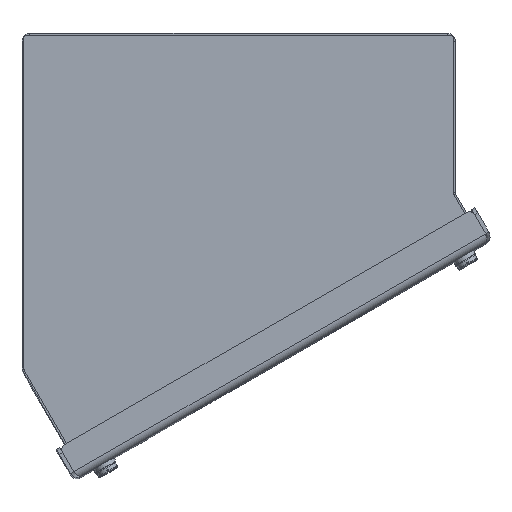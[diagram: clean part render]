
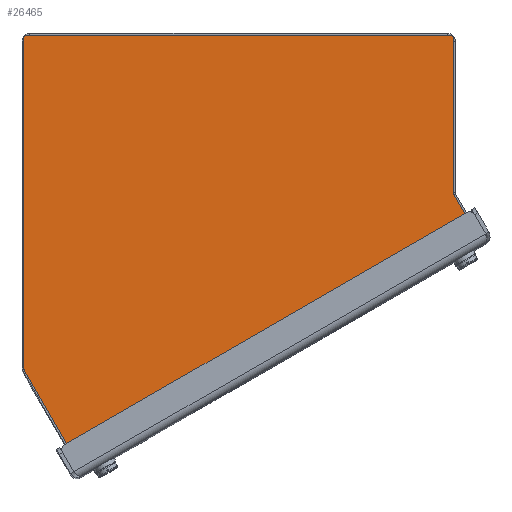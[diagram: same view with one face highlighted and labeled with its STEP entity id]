
A CAD part, top view. The second image highlights one B-rep face of the part: STEP entity #26465.
In plain terms, the highlighted planar face has unit normal (0, 0, 1) as drawn and (0, 1, 0) by its records, which use the part's own axes.
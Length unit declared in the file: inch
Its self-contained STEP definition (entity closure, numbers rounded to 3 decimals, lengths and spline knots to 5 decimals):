
#25774=CARTESIAN_POINT('',(3.32,2.5003,5.33756));
#25775=DIRECTION('',(0.,1.,0.));
#25776=DIRECTION('',(1.,0.,0.));
#25777=AXIS2_PLACEMENT_3D('',#25774,#25775,#25776);
#25782=DIRECTION('',(0.5,0.,0.866));
#25783=VECTOR('',#25782,0.69097);
#25784=CARTESIAN_POINT('',(3.36536,2.5003,7.78518));
#25785=LINE('',#25784,#25783);
#25789=CARTESIAN_POINT('',(3.6762,2.5003,8.40358));
#25790=DIRECTION('',(0.,1.,0.));
#25791=DIRECTION('',(0.5,0.,0.866));
#25792=AXIS2_PLACEMENT_3D('',#25789,#25790,#25791);
#25797=DIRECTION('',(0.5,0.,0.866));
#25798=VECTOR('',#25797,0.09);
#25799=CARTESIAN_POINT('',(3.06144,2.5003,8.70078));
#25800=LINE('',#25799,#25798);
#25804=DIRECTION('',(0.5,0.,0.866));
#25805=VECTOR('',#25804,0.09);
#25806=CARTESIAN_POINT('',(-1.92073,2.5003,11.57723));
#25807=LINE('',#25806,#25805);
#25811=CARTESIAN_POINT('',(-2.48549,2.5003,11.96103));
#25812=DIRECTION('',(0.,1.,0.));
#25813=DIRECTION('',(-0.866,0.,0.5));
#25814=AXIS2_PLACEMENT_3D('',#25811,#25812,#25813);
#25819=DIRECTION('',(0.5,0.,0.866));
#25820=VECTOR('',#25819,1.66902);
#25821=CARTESIAN_POINT('',(-3.35464,2.5003,10.53562));
#25822=LINE('',#25821,#25820);
#25826=CARTESIAN_POINT('',(-3.32,2.5003,10.51562));
#25827=DIRECTION('',(0.,1.,0.));
#25828=DIRECTION('',(-1.,0.,0.));
#25829=AXIS2_PLACEMENT_3D('',#25826,#25827,#25828);
#25834=CARTESIAN_POINT('',(-3.32,2.5003,5.33756));
#25835=DIRECTION('',(0.,1.,0.));
#25836=DIRECTION('',(0.,0.,-1.));
#25837=AXIS2_PLACEMENT_3D('',#25834,#25835,#25836);
#25842=DIRECTION('',(1.,0.,0.));
#25843=VECTOR('',#25842,6.64);
#25844=CARTESIAN_POINT('',(-3.32,2.5003,5.29756));
#25845=LINE('',#25844,#25843);
#25870=DIRECTION('',(0.,0.,1.));
#25871=VECTOR('',#25870,5.17806);
#25872=CARTESIAN_POINT('',(-3.36,2.5003,5.33756));
#25873=LINE('',#25872,#25871);
#25912=DIRECTION('',(0.866,0.,-0.5));
#25913=VECTOR('',#25912,0.681);
#25914=CARTESIAN_POINT('',(-2.46549,2.5003,11.99567));
#25915=LINE('',#25914,#25913);
#25971=DIRECTION('',(-0.866,0.,0.5));
#25972=VECTOR('',#25971,5.75291);
#25973=CARTESIAN_POINT('',(3.06144,2.5003,8.70078));
#25974=LINE('',#25973,#25972);
#26155=DIRECTION('',(0.866,0.,-0.5));
#26156=VECTOR('',#26155,0.681);
#26157=CARTESIAN_POINT('',(3.10644,2.5003,8.77872));
#26158=LINE('',#26157,#26156);
#26176=CARTESIAN_POINT('',(3.4,2.5003,7.76518));
#26177=DIRECTION('',(0.,-1.,0.));
#26178=DIRECTION('',(-0.866,0.,0.5));
#26179=AXIS2_PLACEMENT_3D('',#26176,#26177,#26178);
#26213=DIRECTION('',(0.,0.,-1.));
#26214=VECTOR('',#26213,2.42762);
#26215=CARTESIAN_POINT('',(3.36,2.5003,7.76518));
#26216=LINE('',#26215,#26214);
#26342=CARTESIAN_POINT('',(3.06144,2.5003,8.70078));
#26343=CARTESIAN_POINT('',(-1.92073,2.5003,11.57723));
#26344=VERTEX_POINT('',#26342);
#26345=VERTEX_POINT('',#26343);
#26346=CARTESIAN_POINT('',(-1.87573,2.5003,11.65517));
#26347=VERTEX_POINT('',#26346);
#26350=CARTESIAN_POINT('',(3.10644,2.5003,8.77872));
#26351=VERTEX_POINT('',#26350);
#26378=CARTESIAN_POINT('',(3.36536,2.5003,7.78518));
#26380=VERTEX_POINT('',#26378);
#26382=CARTESIAN_POINT('',(3.36,2.5003,7.76518));
#26384=VERTEX_POINT('',#26382);
#26386=CARTESIAN_POINT('',(3.36,2.5003,5.33756));
#26387=CARTESIAN_POINT('',(3.32,2.5003,5.29756));
#26388=VERTEX_POINT('',#26386);
#26389=VERTEX_POINT('',#26387);
#26394=CARTESIAN_POINT('',(-3.32,2.5003,5.29756));
#26395=CARTESIAN_POINT('',(-3.36,2.5003,5.33756));
#26396=VERTEX_POINT('',#26394);
#26397=VERTEX_POINT('',#26395);
#26402=CARTESIAN_POINT('',(3.6962,2.5003,8.43822));
#26403=CARTESIAN_POINT('',(3.71084,2.5003,8.38358));
#26404=VERTEX_POINT('',#26402);
#26405=VERTEX_POINT('',#26403);
#26410=CARTESIAN_POINT('',(-3.36,2.5003,10.51562));
#26411=CARTESIAN_POINT('',(-3.35464,2.5003,10.53562));
#26412=VERTEX_POINT('',#26410);
#26413=VERTEX_POINT('',#26411);
#26418=CARTESIAN_POINT('',(-2.52013,2.5003,11.98103));
#26419=VERTEX_POINT('',#26418);
#26422=CARTESIAN_POINT('',(-2.46549,2.5003,11.99567));
#26423=VERTEX_POINT('',#26422);
#26426=CARTESIAN_POINT('',(0.,2.5003,7.76786));
#26427=DIRECTION('',(0.,1.,0.));
#26428=DIRECTION('',(1.,0.,0.));
#26429=AXIS2_PLACEMENT_3D('',#26426,#26427,#26428);
#26430=PLANE('',#26429);
#26432=ORIENTED_EDGE('',*,*,#26431,.F.);
#26434=ORIENTED_EDGE('',*,*,#26433,.F.);
#26436=ORIENTED_EDGE('',*,*,#26435,.F.);
#26438=ORIENTED_EDGE('',*,*,#26437,.T.);
#26440=ORIENTED_EDGE('',*,*,#26439,.F.);
#26442=ORIENTED_EDGE('',*,*,#26441,.F.);
#26444=ORIENTED_EDGE('',*,*,#26443,.F.);
#26446=ORIENTED_EDGE('',*,*,#26445,.T.);
#26448=ORIENTED_EDGE('',*,*,#26447,.T.);
#26450=ORIENTED_EDGE('',*,*,#26449,.F.);
#26452=ORIENTED_EDGE('',*,*,#26451,.F.);
#26454=ORIENTED_EDGE('',*,*,#26453,.F.);
#26456=ORIENTED_EDGE('',*,*,#26455,.F.);
#26458=ORIENTED_EDGE('',*,*,#26457,.F.);
#26460=ORIENTED_EDGE('',*,*,#26459,.F.);
#26462=ORIENTED_EDGE('',*,*,#26461,.T.);
#26463=EDGE_LOOP('',(#26432,#26434,#26436,#26438,#26440,#26442,#26444,#26446,
#26448,#26450,#26452,#26454,#26456,#26458,#26460,#26462));
#26464=FACE_OUTER_BOUND('',#26463,.F.);
#25778=CIRCLE('',#25777,0.04);
#25793=CIRCLE('',#25792,0.04);
#25815=CIRCLE('',#25814,0.04);
#25830=CIRCLE('',#25829,0.04);
#25838=CIRCLE('',#25837,0.04);
#26180=CIRCLE('',#26179,0.04);
#26431=EDGE_CURVE('',#26388,#26389,#25778,.T.);
#26433=EDGE_CURVE('',#26384,#26388,#26216,.T.);
#26435=EDGE_CURVE('',#26380,#26384,#26180,.T.);
#26437=EDGE_CURVE('',#26380,#26405,#25785,.T.);
#26439=EDGE_CURVE('',#26404,#26405,#25793,.T.);
#26441=EDGE_CURVE('',#26351,#26404,#26158,.T.);
#26443=EDGE_CURVE('',#26344,#26351,#25800,.T.);
#26445=EDGE_CURVE('',#26344,#26345,#25974,.T.);
#26447=EDGE_CURVE('',#26345,#26347,#25807,.T.);
#26449=EDGE_CURVE('',#26423,#26347,#25915,.T.);
#26451=EDGE_CURVE('',#26419,#26423,#25815,.T.);
#26453=EDGE_CURVE('',#26413,#26419,#25822,.T.);
#26455=EDGE_CURVE('',#26412,#26413,#25830,.T.);
#26457=EDGE_CURVE('',#26397,#26412,#25873,.T.);
#26459=EDGE_CURVE('',#26396,#26397,#25838,.T.);
#26461=EDGE_CURVE('',#26396,#26389,#25845,.T.);
#26465=ADVANCED_FACE('',(#26464),#26430,.T.);
